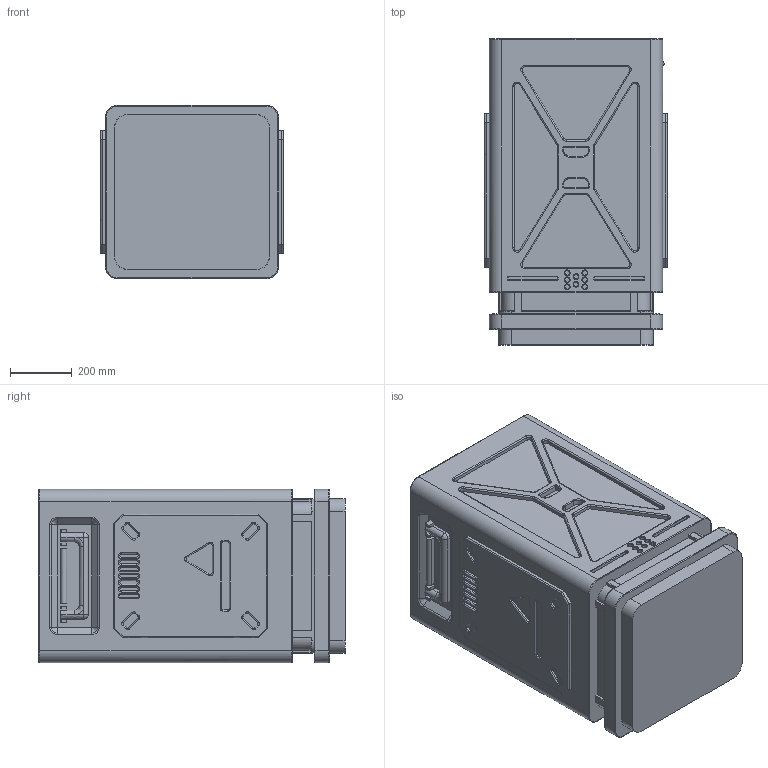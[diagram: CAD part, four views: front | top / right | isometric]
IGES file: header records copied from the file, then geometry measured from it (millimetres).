
Global section: file name: abject sifi 5 v6 (2); native system: unknown; preprocessor: unknown; author: unknown; organization: unknown; date: 20220627.134822; units: centimetre
Bounding box: 590 x 990 x 560 mm (x, y, z)
Volume: 271879582.5 mm3; surface area: 3745431.2 mm2
Topology: 1 solids, 1 shells, 1299 faces, 3094 edges, 1872 vertices
Faces by surface type: bspline 1299
